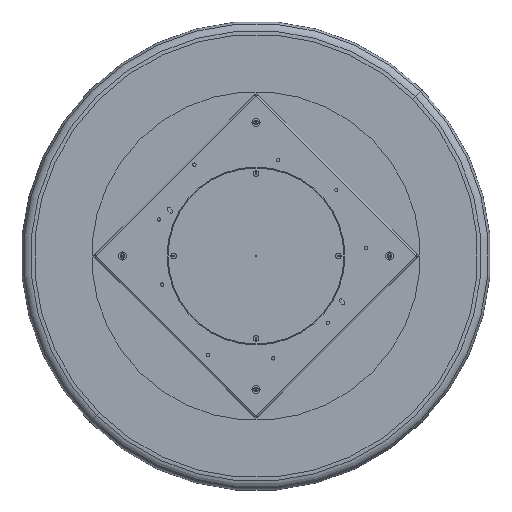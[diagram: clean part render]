
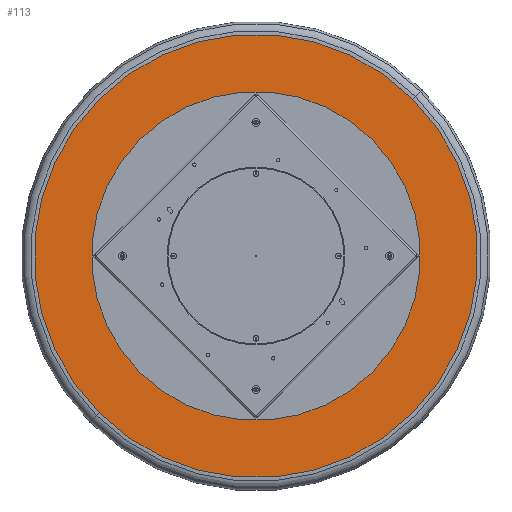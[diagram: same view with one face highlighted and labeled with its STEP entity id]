
A CAD part, front view. The second image highlights one B-rep face of the part: STEP entity #113.
In plain terms, the highlighted planar face has unit normal (0, -1, 0).
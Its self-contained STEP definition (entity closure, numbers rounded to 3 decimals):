
#38 = CARTESIAN_POINT ( 'NONE',  ( 0., -56., 0. ) ) ;
#113 = ADVANCED_FACE ( 'NONE', ( #15550, #1588 ), #4386, .T. ) ;
#367 = AXIS2_PLACEMENT_3D ( 'NONE', #17141, #4806, #10124 ) ;
#1356 = CARTESIAN_POINT ( 'NONE',  ( 0., -56., -490. ) ) ;
#1409 = EDGE_CURVE ( 'NONE', #1537, #12318, #6106, .T. ) ;
#1523 = DIRECTION ( 'NONE',  ( 0., 0., 1. ) ) ;
#1537 = VERTEX_POINT ( 'NONE', #13279 ) ;
#1588 = FACE_OUTER_BOUND ( 'NONE', #5781, .T. ) ;
#1980 = CARTESIAN_POINT ( 'NONE',  ( 0., -56., 0. ) ) ;
#2248 = CIRCLE ( 'NONE', #6565, 661. ) ;
#2858 = CIRCLE ( 'NONE', #17237, 490. ) ;
#3196 = EDGE_CURVE ( 'NONE', #5289, #5844, #8426, .T. ) ;
#3331 = EDGE_LOOP ( 'NONE', ( #13040, #8998 ) ) ;
#3659 = EDGE_CURVE ( 'NONE', #5844, #5289, #2858, .T. ) ;
#4175 = DIRECTION ( 'NONE',  ( 0., -1., 0. ) ) ;
#4188 = EDGE_CURVE ( 'NONE', #12318, #1537, #2248, .T. ) ;
#4258 = CARTESIAN_POINT ( 'NONE',  ( 0., -56., 490. ) ) ;
#4386 = PLANE ( 'NONE',  #10157 ) ;
#4439 = DIRECTION ( 'NONE',  ( 0., 0., -1. ) ) ;
#4806 = DIRECTION ( 'NONE',  ( 0., 1., 0. ) ) ;
#5289 = VERTEX_POINT ( 'NONE', #4258 ) ;
#5310 = ORIENTED_EDGE ( 'NONE', *, *, #1409, .F. ) ;
#5773 = DIRECTION ( 'NONE',  ( 0., 0., -1. ) ) ;
#5781 = EDGE_LOOP ( 'NONE', ( #8848, #5310 ) ) ;
#5844 = VERTEX_POINT ( 'NONE', #1356 ) ;
#6106 = CIRCLE ( 'NONE', #367, 661. ) ;
#6565 = AXIS2_PLACEMENT_3D ( 'NONE', #12775, #15482, #1523 ) ;
#8426 = CIRCLE ( 'NONE', #16774, 490. ) ;
#8475 = CARTESIAN_POINT ( 'NONE',  ( 0., -56., 661. ) ) ;
#8515 = DIRECTION ( 'NONE',  ( 0., 0., -1. ) ) ;
#8848 = ORIENTED_EDGE ( 'NONE', *, *, #4188, .F. ) ;
#8998 = ORIENTED_EDGE ( 'NONE', *, *, #3196, .F. ) ;
#9689 = DIRECTION ( 'NONE',  ( 0., -1., 0. ) ) ;
#10124 = DIRECTION ( 'NONE',  ( 0., 0., 1. ) ) ;
#10157 = AXIS2_PLACEMENT_3D ( 'NONE', #11497, #9689, #8515 ) ;
#11497 = CARTESIAN_POINT ( 'NONE',  ( 0., -56., 661. ) ) ;
#12318 = VERTEX_POINT ( 'NONE', #8475 ) ;
#12775 = CARTESIAN_POINT ( 'NONE',  ( 0., -56., 0. ) ) ;
#13040 = ORIENTED_EDGE ( 'NONE', *, *, #3659, .F. ) ;
#13279 = CARTESIAN_POINT ( 'NONE',  ( 0., -56., -661. ) ) ;
#15482 = DIRECTION ( 'NONE',  ( 0., 1., 0. ) ) ;
#15550 = FACE_BOUND ( 'NONE', #3331, .T. ) ;
#15669 = DIRECTION ( 'NONE',  ( 0., -1., 0. ) ) ;
#16774 = AXIS2_PLACEMENT_3D ( 'NONE', #38, #4175, #4439 ) ;
#17141 = CARTESIAN_POINT ( 'NONE',  ( 0., -56., 0. ) ) ;
#17237 = AXIS2_PLACEMENT_3D ( 'NONE', #1980, #15669, #5773 ) ;
